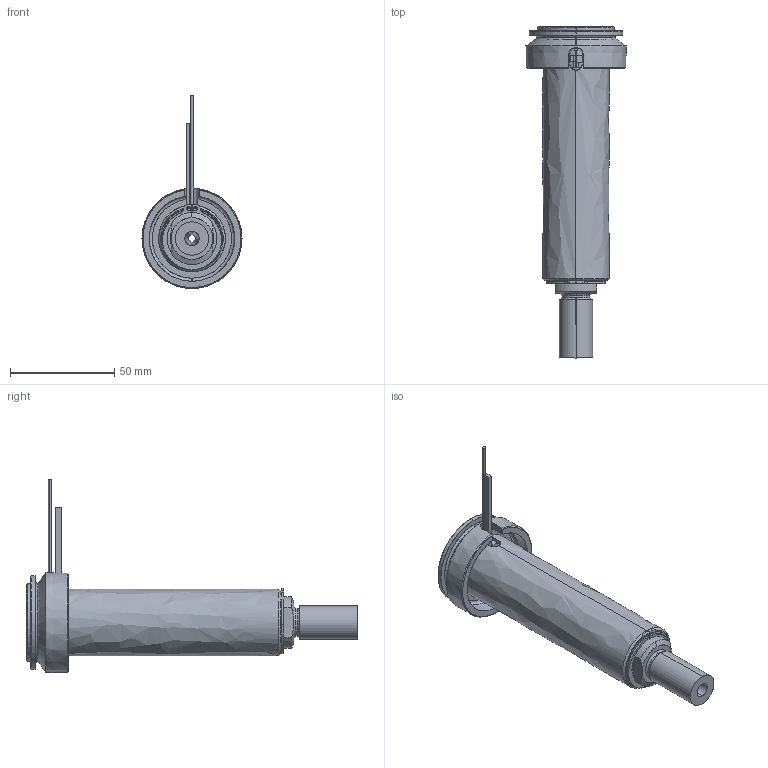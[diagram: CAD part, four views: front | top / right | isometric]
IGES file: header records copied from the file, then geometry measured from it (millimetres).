
Start section: SolidWorks IGES file using analytic representation for surfaces
Global section: file name: C:\Documents and Settings\ws-20\Desktop\TEMPORANEA\UGBE5003-M-A-P-3 [Ød-3.5 P-25 ØC-12].IGS; native system: SolidWorks 2012; preprocessor: SolidWorks 2012; author: ws-20; date: 120306.145508; units: millimetre
Bounding box: 48 x 159.25 x 92.62 mm (x, y, z)
Surface area: 51239.4 mm2 (no closed solid volume)
Topology: 0 solids, 0 shells, 109 faces, 2046 edges, 2046 vertices
Faces by surface type: revolution 62, bspline 47
